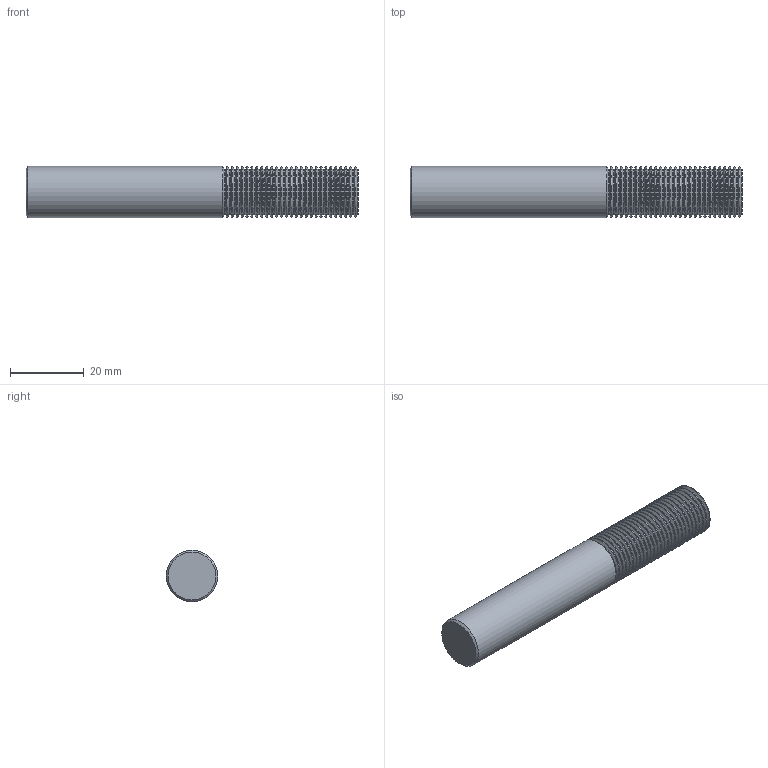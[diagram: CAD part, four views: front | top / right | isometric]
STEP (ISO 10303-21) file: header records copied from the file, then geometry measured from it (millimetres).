
FILE_DESCRIPTION(/* description */ (''),/* implementation_level */ '2;1');
FILE_NAME(/* name */ '00031678-TDM',/* time_stamp */ '2024-02-19T13:21:30+01:00',/* author */ (''),/* organization */ (''),/* preprocessor_version */ 'ST-DEVELOPER v16.5',/* originating_system */ 'HiCAD 2017 2201.0 Build 268',/* authorisation */ '');
FILE_SCHEMA (('AUTOMOTIVE_DESIGN { 1 0 10303 214 1 1 1 1 }'));
Length unit declared in the file: millimetre
Products named in the file (3): Root; ROTATIONSTEIL_0
Assembly tree (2 placements, depth 3):
  Root
    ROTATIONSTEIL_0
      ROTATIONSTEIL_0
Bounding box: 90 x 14 x 14 mm (x, y, z)
Volume: 13064.7 mm3; surface area: 5443.3 mm2
Topology: 2 solids, 2 shells, 172 faces, 340 edges, 172 vertices
Faces by surface type: torus 83, cone 56, cylinder 29, plane 4
Full cylindrical faces by diameter (mm): 12.208 x28, 14 x1
Entity records: 5184 total; most frequent: DIRECTION 692, CARTESIAN_POINT 516, AXIS2_PLACEMENT_3D 346, PRESENTATION_STYLE_ASSIGNMENT 342, COLOUR_RGB 342, DRAUGHTING_PRE_DEFINED_CURVE_FONT 340, CURVE_STYLE 340, OVER_RIDING_STYLED_ITEM 340
